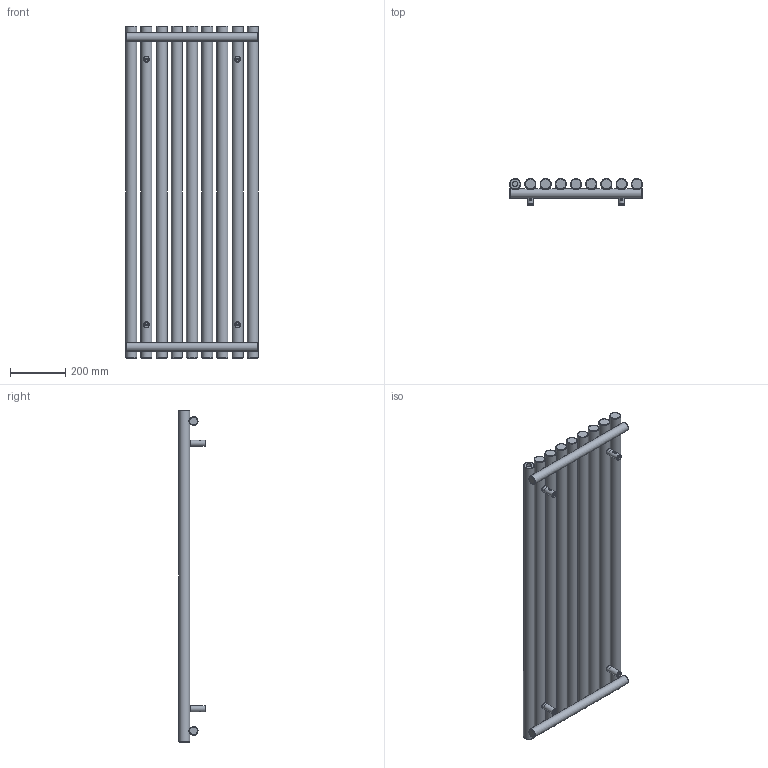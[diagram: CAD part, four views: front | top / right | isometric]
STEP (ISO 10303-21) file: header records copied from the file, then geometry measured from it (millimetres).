
FILE_DESCRIPTION(/* description */ (''),/* implementation_level */ '2;1');
FILE_NAME(/* name */ 'Z:\R\G\P\RGP116 - Grzejniki Geyser\Work\Inventor\Circolo (Rolo V, Rolo H)\ROLO-ROOM\Marketing\Zaokrąglone\WGROR120048-SX-CK-(Z).stp',/* time_stamp */ '2024-01-19T11:46:19+01:00',/* author */ ('NowAd'),/* organization */ (''),/* preprocessor_version */ 'ST-DEVELOPER v17.2',/* originating_system */ 'Autodesk Inventor 2019',/* authorisation */ '');
FILE_SCHEMA (('AUTOMOTIVE_DESIGN { 1 0 10303 214 3 1 1 }'));
Length unit declared in the file: millimetre
Products named in the file (3): WGROR120048-SX-CK-(Z); PGROR120048-SX-CK-(K); CK-V-fi40 marketing
Assembly tree (5 placements, depth 2):
  WGROR120048-SX-CK-(Z)
    PGROR120048-SX-CK-(K)
    CK-V-fi40 marketing  x4
Bounding box: 480 x 96.5 x 1200 mm (x, y, z)
Volume: 14380391.9 mm3; surface area: 1499934.6 mm2
Topology: 5 solids, 5 shells, 347 faces, 864 edges, 578 vertices
Faces by surface type: plane 141, cylinder 78, cone 60, torus 50, bspline 18
Full cylindrical faces by diameter (mm): 4.134 x4, 4.48 x4, 6.4 x4, 10 x4, 12 x4, 15.834 x4, 16 x4, 18.631 x3, 22 x4, 32 x2, 40 x9
Entity records: 8507 total; most frequent: CARTESIAN_POINT 4605, DIRECTION 813, ORIENTED_EDGE 766, EDGE_CURVE 383, AXIS2_PLACEMENT_3D 367, VERTEX_POINT 260, EDGE_LOOP 219, CIRCLE 205
